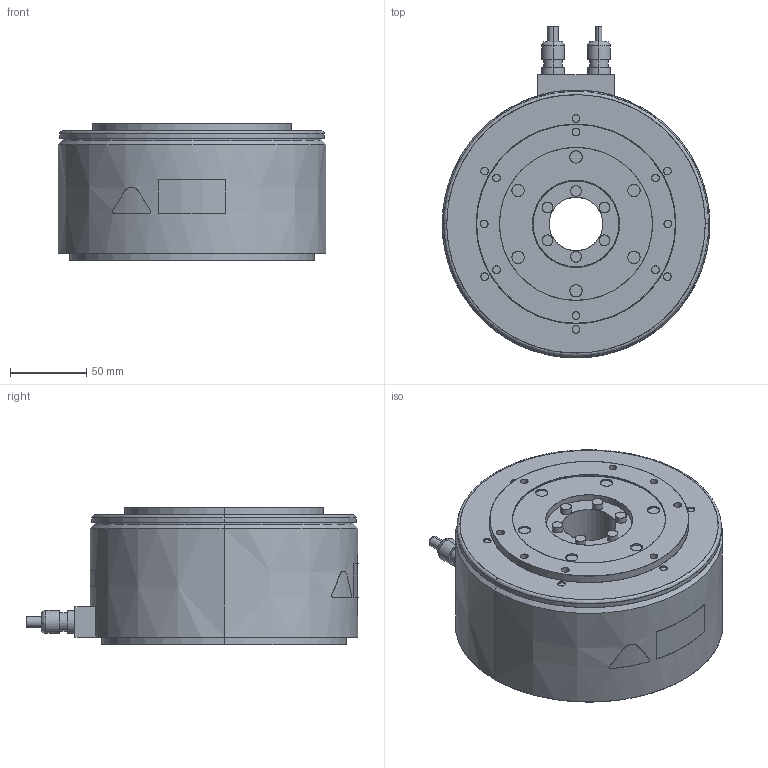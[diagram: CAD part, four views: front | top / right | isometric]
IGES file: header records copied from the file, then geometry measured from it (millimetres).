
Start section: SolidWorks IGES file using analytic representation for surfaces
Bounding box: 175 x 217.1 x 90 mm (x, y, z)
Surface area: 113836.1 mm2 (no closed solid volume)
Topology: 0 solids, 0 shells, 192 faces, 4651 edges, 4651 vertices
Faces by surface type: revolution 114, bspline 78
